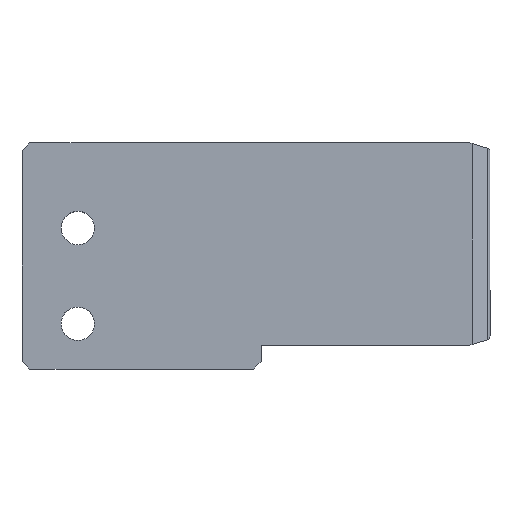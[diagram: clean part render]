
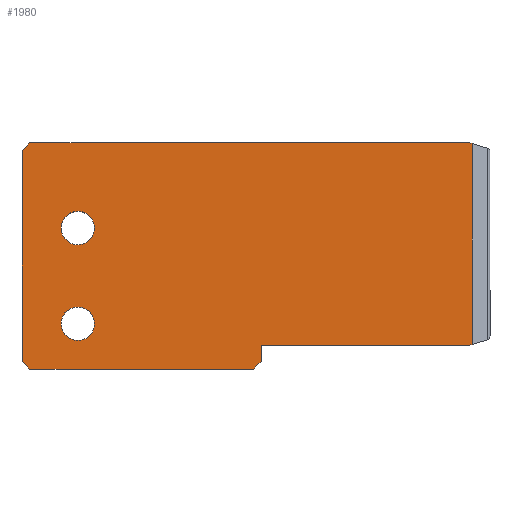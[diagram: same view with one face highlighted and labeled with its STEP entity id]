
A CAD part, top view. The second image highlights one B-rep face of the part: STEP entity #1980.
In plain terms, the highlighted planar face has unit normal (0, 0, 1).
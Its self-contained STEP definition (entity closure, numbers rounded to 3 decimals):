
#101 = ORIENTED_EDGE ( 'NONE', *, *, #2049, .T. ) ;
#123 = ORIENTED_EDGE ( 'NONE', *, *, #1995, .T. ) ;
#125 = ORIENTED_EDGE ( 'NONE', *, *, #1986, .T. ) ;
#126 = ORIENTED_EDGE ( 'NONE', *, *, #485, .T. ) ;
#132 = ORIENTED_EDGE ( 'NONE', *, *, #1991, .T. ) ;
#137 = ORIENTED_EDGE ( 'NONE', *, *, #2047, .T. ) ;
#138 = ORIENTED_EDGE ( 'NONE', *, *, #494, .T. ) ;
#142 = ORIENTED_EDGE ( 'NONE', *, *, #524, .T. ) ;
#150 = ORIENTED_EDGE ( 'NONE', *, *, #511, .T. ) ;
#196 = VERTEX_POINT ( 'NONE', #1452 ) ;
#197 = VERTEX_POINT ( 'NONE', #1888 ) ;
#198 = VERTEX_POINT ( 'NONE', #1886 ) ;
#199 = VERTEX_POINT ( 'NONE', #1887 ) ;
#204 = VERTEX_POINT ( 'NONE', #455 ) ;
#205 = VERTEX_POINT ( 'NONE', #1884 ) ;
#209 = VERTEX_POINT ( 'NONE', #1879 ) ;
#217 = VERTEX_POINT ( 'NONE', #1869 ) ;
#218 = VERTEX_POINT ( 'NONE', #1868 ) ;
#222 = VERTEX_POINT ( 'NONE', #1864 ) ;
#234 = EDGE_LOOP ( 'NONE', ( #1904, #1446 ) ) ;
#238 = EDGE_LOOP ( 'NONE', ( #420, #150 ) ) ;
#239 = EDGE_LOOP ( 'NONE', ( #126, #137, #125, #132, #142, #138, #123, #101, #363, #1467, #327 ) ) ;
#281 = VERTEX_POINT ( 'NONE', #1862 ) ;
#296 = VERTEX_POINT ( 'NONE', #1843 ) ;
#299 = VERTEX_POINT ( 'NONE', #1840 ) ;
#306 = VERTEX_POINT ( 'NONE', #1833 ) ;
#327 = ORIENTED_EDGE ( 'NONE', *, *, #2030, .T. ) ;
#363 = ORIENTED_EDGE ( 'NONE', *, *, #1997, .T. ) ;
#420 = ORIENTED_EDGE ( 'NONE', *, *, #484, .T. ) ;
#454 = VERTEX_POINT ( 'NONE', #1789 ) ;
#455 = CARTESIAN_POINT ( 'NONE',  ( 24.363, -8.393, 3.17 ) ) ;
#478 = EDGE_CURVE ( 'NONE', #306, #281, #937, .T. ) ;
#484 = EDGE_CURVE ( 'NONE', #299, #296, #839, .T. ) ;
#485 = EDGE_CURVE ( 'NONE', #217, #205, #1650, .T. ) ;
#494 = EDGE_CURVE ( 'NONE', #198, #454, #1620, .T. ) ;
#511 = EDGE_CURVE ( 'NONE', #296, #299, #949, .T. ) ;
#524 = EDGE_CURVE ( 'NONE', #199, #198, #1460, .T. ) ;
#532 = VECTOR ( 'NONE', #1525, 1000. ) ;
#553 = VECTOR ( 'NONE', #2392, 1000. ) ;
#585 = VECTOR ( 'NONE', #2136, 1000. ) ;
#586 = AXIS2_PLACEMENT_3D ( 'NONE', #2373, #2370, #2369 ) ;
#588 = VECTOR ( 'NONE', #2143, 1000. ) ;
#590 = VECTOR ( 'NONE', #2151, 1000. ) ;
#607 = VECTOR ( 'NONE', #2231, 1000. ) ;
#657 = VECTOR ( 'NONE', #2434, 1000. ) ;
#664 = CIRCLE ( 'NONE', #586, 2.1 ) ;
#669 = VECTOR ( 'NONE', #2385, 1000. ) ;
#723 = VECTOR ( 'NONE', #2420, 1000. ) ;
#728 = AXIS2_PLACEMENT_3D ( 'NONE', #2489, #2488, #2487 ) ;
#763 = AXIS2_PLACEMENT_3D ( 'NONE', #1502, #1496, #1488 ) ;
#812 = VECTOR ( 'NONE', #1610, 1000. ) ;
#815 = AXIS2_PLACEMENT_3D ( 'NONE', #1649, #1646, #1645 ) ;
#822 = AXIS2_PLACEMENT_3D ( 'NONE', #1668, #1667, #1666 ) ;
#839 = CIRCLE ( 'NONE', #815, 2.1 ) ;
#850 = VECTOR ( 'NONE', #1643, 1000. ) ;
#937 = CIRCLE ( 'NONE', #822, 2.1 ) ;
#949 = CIRCLE ( 'NONE', #763, 2.1 ) ;
#1446 = ORIENTED_EDGE ( 'NONE', *, *, #478, .T. ) ;
#1452 = CARTESIAN_POINT ( 'NONE',  ( -31.087, -11.501, 3.17 ) ) ;
#1460 = LINE ( 'NONE', #1527, #532 ) ;
#1467 = ORIENTED_EDGE ( 'NONE', *, *, #2045, .T. ) ;
#1488 = DIRECTION ( 'NONE',  ( -1., 0., 0. ) ) ;
#1496 = DIRECTION ( 'NONE',  ( 0., 0., -1. ) ) ;
#1502 = CARTESIAN_POINT ( 'NONE',  ( -25.087, -5.801, 3.17 ) ) ;
#1525 = DIRECTION ( 'NONE',  ( -0.956, 0.294, 0. ) ) ;
#1527 = CARTESIAN_POINT ( 'NONE',  ( 24.013, 16.899, 3.17 ) ) ;
#1610 = DIRECTION ( 'NONE',  ( -1., 0., 0. ) ) ;
#1611 = CARTESIAN_POINT ( 'NONE',  ( -32.087, 16.899, 3.17 ) ) ;
#1620 = LINE ( 'NONE', #1611, #812 ) ;
#1643 = DIRECTION ( 'NONE',  ( 0., 1., 0. ) ) ;
#1645 = DIRECTION ( 'NONE',  ( -1., 0., 0. ) ) ;
#1646 = DIRECTION ( 'NONE',  ( 0., 0., -1. ) ) ;
#1649 = CARTESIAN_POINT ( 'NONE',  ( -25.087, -5.801, 3.17 ) ) ;
#1650 = LINE ( 'NONE', #1654, #850 ) ;
#1654 = CARTESIAN_POINT ( 'NONE',  ( -2.087, -11.501, 3.17 ) ) ;
#1666 = DIRECTION ( 'NONE',  ( -1., 0., 0. ) ) ;
#1667 = DIRECTION ( 'NONE',  ( 0., 0., -1. ) ) ;
#1668 = CARTESIAN_POINT ( 'NONE',  ( -25.087, 6.199, 3.17 ) ) ;
#1789 = CARTESIAN_POINT ( 'NONE',  ( -31.087, 16.899, 3.17 ) ) ;
#1833 = CARTESIAN_POINT ( 'NONE',  ( -22.987, 6.199, 3.17 ) ) ;
#1840 = CARTESIAN_POINT ( 'NONE',  ( -27.187, -5.801, 3.17 ) ) ;
#1843 = CARTESIAN_POINT ( 'NONE',  ( -22.987, -5.801, 3.17 ) ) ;
#1862 = CARTESIAN_POINT ( 'NONE',  ( -27.187, 6.199, 3.17 ) ) ;
#1864 = CARTESIAN_POINT ( 'NONE',  ( -3.087, -11.501, 3.17 ) ) ;
#1868 = CARTESIAN_POINT ( 'NONE',  ( -32.087, 15.899, 3.17 ) ) ;
#1869 = CARTESIAN_POINT ( 'NONE',  ( -2.087, -10.501, 3.17 ) ) ;
#1879 = CARTESIAN_POINT ( 'NONE',  ( -32.087, -10.501, 3.17 ) ) ;
#1884 = CARTESIAN_POINT ( 'NONE',  ( -2.087, -8.501, 3.17 ) ) ;
#1886 = CARTESIAN_POINT ( 'NONE',  ( 24.013, 16.899, 3.17 ) ) ;
#1887 = CARTESIAN_POINT ( 'NONE',  ( 24.363, 16.791, 3.17 ) ) ;
#1888 = CARTESIAN_POINT ( 'NONE',  ( 24.013, -8.501, 3.17 ) ) ;
#1904 = ORIENTED_EDGE ( 'NONE', *, *, #2001, .T. ) ;
#1980 = ADVANCED_FACE ( 'NONE', ( #2502, #2500, #2498 ), #2497, .T. ) ;
#1986 = EDGE_CURVE ( 'NONE', #197, #204, #2436, .T. ) ;
#1991 = EDGE_CURVE ( 'NONE', #204, #199, #2421, .T. ) ;
#1995 = EDGE_CURVE ( 'NONE', #454, #218, #2393, .T. ) ;
#1997 = EDGE_CURVE ( 'NONE', #209, #196, #2390, .T. ) ;
#2001 = EDGE_CURVE ( 'NONE', #281, #306, #664, .T. ) ;
#2030 = EDGE_CURVE ( 'NONE', #222, #217, #2234, .T. ) ;
#2045 = EDGE_CURVE ( 'NONE', #196, #222, #2150, .T. ) ;
#2047 = EDGE_CURVE ( 'NONE', #205, #197, #2144, .T. ) ;
#2049 = EDGE_CURVE ( 'NONE', #218, #209, #2139, .T. ) ;
#2136 = DIRECTION ( 'NONE',  ( 0., -1., 0. ) ) ;
#2137 = CARTESIAN_POINT ( 'NONE',  ( -32.087, -11.501, 3.17 ) ) ;
#2139 = LINE ( 'NONE', #2137, #585 ) ;
#2143 = DIRECTION ( 'NONE',  ( 1., 0., 0. ) ) ;
#2144 = LINE ( 'NONE', #2147, #588 ) ;
#2147 = CARTESIAN_POINT ( 'NONE',  ( -32.087, -8.501, 3.17 ) ) ;
#2149 = CARTESIAN_POINT ( 'NONE',  ( -32.087, -11.501, 3.17 ) ) ;
#2150 = LINE ( 'NONE', #2149, #590 ) ;
#2151 = DIRECTION ( 'NONE',  ( 1., 0., 0. ) ) ;
#2231 = DIRECTION ( 'NONE',  ( 0.707, 0.707, 0. ) ) ;
#2232 = CARTESIAN_POINT ( 'NONE',  ( -2.087, -10.501, 3.17 ) ) ;
#2234 = LINE ( 'NONE', #2232, #607 ) ;
#2369 = DIRECTION ( 'NONE',  ( -1., 0., 0. ) ) ;
#2370 = DIRECTION ( 'NONE',  ( 0., 0., -1. ) ) ;
#2373 = CARTESIAN_POINT ( 'NONE',  ( -25.087, 6.199, 3.17 ) ) ;
#2385 = DIRECTION ( 'NONE',  ( 0.707, -0.707, 0. ) ) ;
#2387 = CARTESIAN_POINT ( 'NONE',  ( -31.087, -11.501, 3.17 ) ) ;
#2390 = LINE ( 'NONE', #2387, #669 ) ;
#2391 = CARTESIAN_POINT ( 'NONE',  ( -32.087, 15.899, 3.17 ) ) ;
#2392 = DIRECTION ( 'NONE',  ( -0.707, -0.707, 0. ) ) ;
#2393 = LINE ( 'NONE', #2391, #553 ) ;
#2419 = CARTESIAN_POINT ( 'NONE',  ( 24.363, -11.501, 3.17 ) ) ;
#2420 = DIRECTION ( 'NONE',  ( 0., 1., 0. ) ) ;
#2421 = LINE ( 'NONE', #2419, #723 ) ;
#2433 = CARTESIAN_POINT ( 'NONE',  ( 26.613, -7.701, 3.17 ) ) ;
#2434 = DIRECTION ( 'NONE',  ( 0.956, 0.294, 0. ) ) ;
#2436 = LINE ( 'NONE', #2433, #657 ) ;
#2487 = DIRECTION ( 'NONE',  ( 1., 0., 0. ) ) ;
#2488 = DIRECTION ( 'NONE',  ( 0., 0., 1. ) ) ;
#2489 = CARTESIAN_POINT ( 'NONE',  ( -32.087, -11.501, 3.17 ) ) ;
#2497 = PLANE ( 'NONE',  #728 ) ;
#2498 = FACE_BOUND ( 'NONE', #234, .T. ) ;
#2500 = FACE_OUTER_BOUND ( 'NONE', #239, .T. ) ;
#2502 = FACE_BOUND ( 'NONE', #238, .T. ) ;
